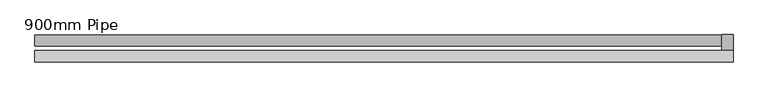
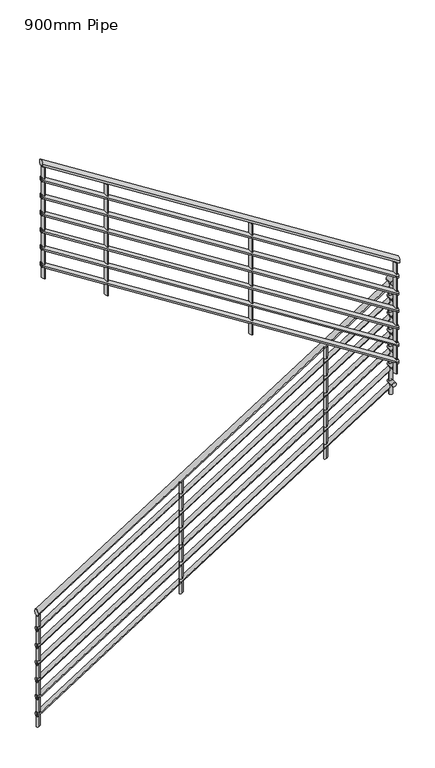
"""IFC4 building model written with IfcOpenShell, lengths in millimetres: railing geometry, 900mm Pipe."""

from ifc_helpers import new_model, si_unit, point, frame, frame_2d, origin, place, context, project, spatial, circle_curve, ellipse_curve, trimmed, segment, composite_curve, outline, extrude, source, transform, mapped, element, save
from ifc_brep_helpers import plane_surface, cylinder_surface, advanced_brep


def railing_900mm_pipe_01e83790(model_context):
    return source(origin(), model_context, "Body", "SolidModel", [
        advanced_brep(
        [(9044.2181942, -645.4667097, 1051.2938094), (9044.2181942, -685.4667097, 1051.2938094), (11474.2181942, -645.4667097, 2597.6574458), (11474.2181942, -685.4667097, 2597.6574458)],
        [
            (0, 1, ellipse_curve(frame((9044.2181942, -665.4667097, 1051.2938094), z_axis=(-1.0, 0.0, 0.0), x_axis=(0.0, 0.0, -1.0)), 23.7061906, 20.0)),
            (1, 0, ellipse_curve(frame((9044.2181942, -665.4667097, 1051.2938094), z_axis=(-1.0, 0.0, 0.0), x_axis=(0.0, 0.0, -1.0)), 23.7061906, 20.0)),
            (2, 3, ellipse_curve(frame((11474.2181942, -665.4667097, 2597.6574458), z_axis=(1.0, 0.0, 0.0), x_axis=(0.0, 0.0, -1.0)), 23.7061906, 20.0)),
            (3, 2, ellipse_curve(frame((11474.2181942, -665.4667097, 2597.6574458), z_axis=(1.0, 0.0, 0.0), x_axis=(0.0, 0.0, -1.0)), 23.7061906, 20.0)),
            (1, 3),
            (2, 0),
        ],
        [
            plane_surface(frame((9044.2181942, -665.4667097, 1075.0), z_axis=(-1.0, 0.0, 0.0), x_axis=(0.0, 1.0, 0.0))),
            plane_surface(frame((11474.2181942, -665.4667097, 2621.3636364), z_axis=(1.0, 0.0, 0.0), x_axis=(0.0, 1.0, 0.0))),
            cylinder_surface(frame((9054.955704, -665.4667097, 1058.1267702), z_axis=(-0.8436614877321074, 0.0, -0.5368754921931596), x_axis=(0.0, -1.0, 0.0)), 20.0),
        ],
        [
            (0, [[1, 2]]),
            (1, [[3, 4]]),
            (2, [[-2, 5, -3, 6]]),
            (2, [[-1, -6, -4, -5]]),
        ],
    ),
        advanced_brep(
        [(11514.2181942, -645.4667097, 2630.0), (11474.2181942, -645.4667097, 2630.0), (11514.2181942, -702.0090589, 2630.0), (11474.2181942, -702.0090589, 2630.0)],
        [
            (0, 1, circle_curve(frame((11494.2181942, -645.4667097, 2630.0), z_axis=(0.0, 1.0, 0.0), x_axis=(-1.0, 0.0, 0.0)), 20.0)),
            (1, 0, circle_curve(frame((11494.2181942, -645.4667097, 2630.0), z_axis=(0.0, 1.0, 0.0), x_axis=(-1.0, 0.0, 0.0)), 20.0)),
            (2, 3, circle_curve(frame((11494.2181942, -702.0090589, 2630.0), z_axis=(0.0, -1.0, 0.0), x_axis=(-1.0, 0.0, 0.0)), 20.0)),
            (3, 2, circle_curve(frame((11494.2181942, -702.0090589, 2630.0), z_axis=(0.0, -1.0, 0.0), x_axis=(-1.0, 0.0, 0.0)), 20.0)),
            (1, 3),
            (2, 0),
        ],
        [
            plane_surface(frame((11494.2181942, -645.4667097, 2650.0), z_axis=(0.0, 1.0, 0.0), x_axis=(0.0, 0.0, -1.0))),
            plane_surface(frame((11494.2181942, -702.0090589, 2650.0), z_axis=(0.0, -1.0, 0.0), x_axis=(0.0, 0.0, -1.0))),
            cylinder_surface(frame((11494.2181942, -645.4667097, 2630.0), z_axis=(0.0, 1.0, 0.0), x_axis=(-1.0, 0.0, 0.0)), 20.0),
        ],
        [
            (0, [[1, 2]]),
            (1, [[3, 4]]),
            (2, [[-2, 5, -3, 6]]),
            (2, [[-1, -6, -4, -5]]),
        ],
    ),
        advanced_brep(
        [(11514.2181942, -742.0090589, 2804.4756276), (11514.2181942, -702.0090589, 2804.4756276), (9044.2181942, -742.0090589, 4376.2938094), (9044.2181942, -702.0090589, 4376.2938094)],
        [
            (0, 1, ellipse_curve(frame((11514.2181942, -722.0090589, 2804.4756276), z_axis=(1.0, 0.0, 0.0), x_axis=(0.0, 0.0, -1.0)), 23.7061906, 20.0)),
            (1, 0, ellipse_curve(frame((11514.2181942, -722.0090589, 2804.4756276), z_axis=(1.0, 0.0, 0.0), x_axis=(0.0, 0.0, -1.0)), 23.7061906, 20.0)),
            (2, 3, ellipse_curve(frame((9044.2181942, -722.0090589, 4376.2938094), z_axis=(-1.0, 0.0, 0.0), x_axis=(0.0, 0.0, -1.0)), 23.7061906, 20.0)),
            (3, 2, ellipse_curve(frame((9044.2181942, -722.0090589, 4376.2938094), z_axis=(-1.0, 0.0, 0.0), x_axis=(0.0, 0.0, -1.0)), 23.7061906, 20.0)),
            (1, 3),
            (2, 0),
        ],
        [
            plane_surface(frame((11514.2181942, -722.0090589, 2828.1818182), z_axis=(1.0, 0.0, 0.0), x_axis=(0.0, -1.0, 0.0))),
            plane_surface(frame((9044.2181942, -722.0090589, 4400.0), z_axis=(-1.0, 0.0, 0.0), x_axis=(0.0, -1.0, 0.0))),
            cylinder_surface(frame((11503.4806843, -722.0090589, 2811.3085884), z_axis=(0.8436614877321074, 0.0, -0.5368754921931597), x_axis=(0.0, 1.0, 0.0)), 20.0),
        ],
        [
            (0, [[1, 2]]),
            (1, [[3, 4]]),
            (2, [[-2, 5, -3, 6]]),
            (2, [[-1, -6, -4, -5]]),
        ],
    ),
        advanced_brep(
        [(9044.2181942, -650.4667097, 932.2203571), (9044.2181942, -680.4667097, 932.2203571), (11479.2181942, -650.4667097, 2481.7658116), (11479.2181942, -680.4667097, 2481.7658116)],
        [
            (0, 1, ellipse_curve(frame((9044.2181942, -665.4667097, 932.2203571), z_axis=(-1.0, 0.0, 0.0), x_axis=(0.0, 0.0, -1.0)), 17.7796429, 15.0)),
            (1, 0, ellipse_curve(frame((9044.2181942, -665.4667097, 932.2203571), z_axis=(-1.0, 0.0, 0.0), x_axis=(0.0, 0.0, -1.0)), 17.7796429, 15.0)),
            (2, 3, ellipse_curve(frame((11479.2181942, -665.4667097, 2481.7658116), z_axis=(1.0, 0.0, 0.0), x_axis=(0.0, 0.0, -1.0)), 17.7796429, 15.0)),
            (3, 2, ellipse_curve(frame((11479.2181942, -665.4667097, 2481.7658116), z_axis=(1.0, 0.0, 0.0), x_axis=(0.0, 0.0, -1.0)), 17.7796429, 15.0)),
            (1, 3),
            (2, 0),
        ],
        [
            plane_surface(frame((9044.2181942, -665.4667097, 950.0), z_axis=(-1.0, 0.0, 0.0), x_axis=(0.0, 1.0, 0.0))),
            plane_surface(frame((11479.2181942, -665.4667097, 2499.5454545), z_axis=(1.0, 0.0, 0.0), x_axis=(0.0, 1.0, 0.0))),
            cylinder_surface(frame((9052.2713265, -665.4667097, 937.3450777), z_axis=(-0.8436614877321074, 0.0, -0.5368754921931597), x_axis=(0.0, -1.0, 0.0)), 15.0),
        ],
        [
            (0, [[1, 2]]),
            (1, [[3, 4]]),
            (2, [[-2, 5, -3, 6]]),
            (2, [[-1, -6, -4, -5]]),
        ],
    ),
        advanced_brep(
        [(11509.2181942, -650.4667097, 2510.0), (11479.2181942, -650.4667097, 2510.0), (11509.2181942, -707.0090589, 2510.0), (11479.2181942, -707.0090589, 2510.0)],
        [
            (0, 1, circle_curve(frame((11494.2181942, -650.4667097, 2510.0), z_axis=(0.0, 1.0, 0.0), x_axis=(-1.0, 0.0, 0.0)), 15.0)),
            (1, 0, circle_curve(frame((11494.2181942, -650.4667097, 2510.0), z_axis=(0.0, 1.0, 0.0), x_axis=(-1.0, 0.0, 0.0)), 15.0)),
            (2, 3, circle_curve(frame((11494.2181942, -707.0090589, 2510.0), z_axis=(0.0, -1.0, 0.0), x_axis=(-1.0, 0.0, 0.0)), 15.0)),
            (3, 2, circle_curve(frame((11494.2181942, -707.0090589, 2510.0), z_axis=(0.0, -1.0, 0.0), x_axis=(-1.0, 0.0, 0.0)), 15.0)),
            (1, 3),
            (2, 0),
        ],
        [
            plane_surface(frame((11494.2181942, -650.4667097, 2525.0), z_axis=(0.0, 1.0, 0.0), x_axis=(0.0, 0.0, -1.0))),
            plane_surface(frame((11494.2181942, -707.0090589, 2525.0), z_axis=(0.0, -1.0, 0.0), x_axis=(0.0, 0.0, -1.0))),
            cylinder_surface(frame((11494.2181942, -650.4667097, 2510.0), z_axis=(0.0, 1.0, 0.0), x_axis=(-1.0, 0.0, 0.0)), 15.0),
        ],
        [
            (0, [[1, 2]]),
            (1, [[3, 4]]),
            (2, [[-2, 5, -3, 6]]),
            (2, [[-1, -6, -4, -5]]),
        ],
    ),
        advanced_brep(
        [(11509.2181942, -737.0090589, 2688.5839934), (11509.2181942, -707.0090589, 2688.5839934), (9044.2181942, -737.0090589, 4257.2203571), (9044.2181942, -707.0090589, 4257.2203571)],
        [
            (0, 1, ellipse_curve(frame((11509.2181942, -722.0090589, 2688.5839934), z_axis=(1.0, 0.0, 0.0), x_axis=(0.0, 0.0, -1.0)), 17.7796429, 15.0)),
            (1, 0, ellipse_curve(frame((11509.2181942, -722.0090589, 2688.5839934), z_axis=(1.0, 0.0, 0.0), x_axis=(0.0, 0.0, -1.0)), 17.7796429, 15.0)),
            (2, 3, ellipse_curve(frame((9044.2181942, -722.0090589, 4257.2203571), z_axis=(-1.0, 0.0, 0.0), x_axis=(0.0, 0.0, -1.0)), 17.7796429, 15.0)),
            (3, 2, ellipse_curve(frame((9044.2181942, -722.0090589, 4257.2203571), z_axis=(-1.0, 0.0, 0.0), x_axis=(0.0, 0.0, -1.0)), 17.7796429, 15.0)),
            (1, 3),
            (2, 0),
        ],
        [
            plane_surface(frame((11509.2181942, -722.0090589, 2706.3636364), z_axis=(1.0, 0.0, 0.0), x_axis=(0.0, -1.0, 0.0))),
            plane_surface(frame((9044.2181942, -722.0090589, 4275.0), z_axis=(-1.0, 0.0, 0.0), x_axis=(0.0, -1.0, 0.0))),
            cylinder_surface(frame((11501.1650618, -722.0090589, 2693.708714), z_axis=(0.8436614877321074, 0.0, -0.5368754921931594), x_axis=(0.0, 1.0, 0.0)), 15.0),
        ],
        [
            (0, [[1, 2]]),
            (1, [[3, 4]]),
            (2, [[-2, 5, -3, 6]]),
            (2, [[-1, -6, -4, -5]]),
        ],
    ),
        advanced_brep(
        [(9044.2181942, -650.4667097, 807.2203571), (9044.2181942, -680.4667097, 807.2203571), (11479.2181942, -650.4667097, 2356.7658116), (11479.2181942, -680.4667097, 2356.7658116)],
        [
            (0, 1, ellipse_curve(frame((9044.2181942, -665.4667097, 807.2203571), z_axis=(-1.0, 0.0, 0.0), x_axis=(0.0, 0.0, -1.0)), 17.7796429, 15.0)),
            (1, 0, ellipse_curve(frame((9044.2181942, -665.4667097, 807.2203571), z_axis=(-1.0, 0.0, 0.0), x_axis=(0.0, 0.0, -1.0)), 17.7796429, 15.0)),
            (2, 3, ellipse_curve(frame((11479.2181942, -665.4667097, 2356.7658116), z_axis=(1.0, 0.0, 0.0), x_axis=(0.0, 0.0, -1.0)), 17.7796429, 15.0)),
            (3, 2, ellipse_curve(frame((11479.2181942, -665.4667097, 2356.7658116), z_axis=(1.0, 0.0, 0.0), x_axis=(0.0, 0.0, -1.0)), 17.7796429, 15.0)),
            (1, 3),
            (2, 0),
        ],
        [
            plane_surface(frame((9044.2181942, -665.4667097, 825.0), z_axis=(-1.0, 0.0, 0.0), x_axis=(0.0, 1.0, 0.0))),
            plane_surface(frame((11479.2181942, -665.4667097, 2374.5454545), z_axis=(1.0, 0.0, 0.0), x_axis=(0.0, 1.0, 0.0))),
            cylinder_surface(frame((9052.2713265, -665.4667097, 812.3450777), z_axis=(-0.8436614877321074, 0.0, -0.5368754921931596), x_axis=(0.0, -1.0, 0.0)), 15.0),
        ],
        [
            (0, [[1, 2]]),
            (1, [[3, 4]]),
            (2, [[-2, 5, -3, 6]]),
            (2, [[-1, -6, -4, -5]]),
        ],
    ),
        advanced_brep(
        [(11509.2181942, -650.4667097, 2385.0), (11479.2181942, -650.4667097, 2385.0), (11509.2181942, -707.0090589, 2385.0), (11479.2181942, -707.0090589, 2385.0)],
        [
            (0, 1, circle_curve(frame((11494.2181942, -650.4667097, 2385.0), z_axis=(0.0, 1.0, 0.0), x_axis=(-1.0, 0.0, 0.0)), 15.0)),
            (1, 0, circle_curve(frame((11494.2181942, -650.4667097, 2385.0), z_axis=(0.0, 1.0, 0.0), x_axis=(-1.0, 0.0, 0.0)), 15.0)),
            (2, 3, circle_curve(frame((11494.2181942, -707.0090589, 2385.0), z_axis=(0.0, -1.0, 0.0), x_axis=(-1.0, 0.0, 0.0)), 15.0)),
            (3, 2, circle_curve(frame((11494.2181942, -707.0090589, 2385.0), z_axis=(0.0, -1.0, 0.0), x_axis=(-1.0, 0.0, 0.0)), 15.0)),
            (1, 3),
            (2, 0),
        ],
        [
            plane_surface(frame((11494.2181942, -650.4667097, 2400.0), z_axis=(0.0, 1.0, 0.0), x_axis=(0.0, 0.0, -1.0))),
            plane_surface(frame((11494.2181942, -707.0090589, 2400.0), z_axis=(0.0, -1.0, 0.0), x_axis=(0.0, 0.0, -1.0))),
            cylinder_surface(frame((11494.2181942, -650.4667097, 2385.0), z_axis=(0.0, 1.0, 0.0), x_axis=(-1.0, 0.0, 0.0)), 15.0),
        ],
        [
            (0, [[1, 2]]),
            (1, [[3, 4]]),
            (2, [[-2, 5, -3, 6]]),
            (2, [[-1, -6, -4, -5]]),
        ],
    ),
        advanced_brep(
        [(11509.2181942, -737.0090589, 2563.5839934), (11509.2181942, -707.0090589, 2563.5839934), (9044.2181942, -737.0090589, 4132.2203571), (9044.2181942, -707.0090589, 4132.2203571)],
        [
            (0, 1, ellipse_curve(frame((11509.2181942, -722.0090589, 2563.5839934), z_axis=(1.0, 0.0, 0.0), x_axis=(0.0, 0.0, -1.0)), 17.7796429, 15.0)),
            (1, 0, ellipse_curve(frame((11509.2181942, -722.0090589, 2563.5839934), z_axis=(1.0, 0.0, 0.0), x_axis=(0.0, 0.0, -1.0)), 17.7796429, 15.0)),
            (2, 3, ellipse_curve(frame((9044.2181942, -722.0090589, 4132.2203571), z_axis=(-1.0, 0.0, 0.0), x_axis=(0.0, 0.0, -1.0)), 17.7796429, 15.0)),
            (3, 2, ellipse_curve(frame((9044.2181942, -722.0090589, 4132.2203571), z_axis=(-1.0, 0.0, 0.0), x_axis=(0.0, 0.0, -1.0)), 17.7796429, 15.0)),
            (1, 3),
            (2, 0),
        ],
        [
            plane_surface(frame((11509.2181942, -722.0090589, 2581.3636364), z_axis=(1.0, 0.0, 0.0), x_axis=(0.0, -1.0, 0.0))),
            plane_surface(frame((9044.2181942, -722.0090589, 4150.0), z_axis=(-1.0, 0.0, 0.0), x_axis=(0.0, -1.0, 0.0))),
            cylinder_surface(frame((11501.1650618, -722.0090589, 2568.708714), z_axis=(0.8436614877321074, 0.0, -0.5368754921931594), x_axis=(0.0, 1.0, 0.0)), 15.0),
        ],
        [
            (0, [[1, 2]]),
            (1, [[3, 4]]),
            (2, [[-2, 5, -3, 6]]),
            (2, [[-1, -6, -4, -5]]),
        ],
    ),
        advanced_brep(
        [(9044.2181942, -650.4667097, 682.2203571), (9044.2181942, -680.4667097, 682.2203571), (11479.2181942, -650.4667097, 2231.7658116), (11479.2181942, -680.4667097, 2231.7658116)],
        [
            (0, 1, ellipse_curve(frame((9044.2181942, -665.4667097, 682.2203571), z_axis=(-1.0, 0.0, 0.0), x_axis=(0.0, 0.0, -1.0)), 17.7796429, 15.0)),
            (1, 0, ellipse_curve(frame((9044.2181942, -665.4667097, 682.2203571), z_axis=(-1.0, 0.0, 0.0), x_axis=(0.0, 0.0, -1.0)), 17.7796429, 15.0)),
            (2, 3, ellipse_curve(frame((11479.2181942, -665.4667097, 2231.7658116), z_axis=(1.0, 0.0, 0.0), x_axis=(0.0, 0.0, -1.0)), 17.7796429, 15.0)),
            (3, 2, ellipse_curve(frame((11479.2181942, -665.4667097, 2231.7658116), z_axis=(1.0, 0.0, 0.0), x_axis=(0.0, 0.0, -1.0)), 17.7796429, 15.0)),
            (1, 3),
            (2, 0),
        ],
        [
            plane_surface(frame((9044.2181942, -665.4667097, 700.0), z_axis=(-1.0, 0.0, 0.0), x_axis=(0.0, 1.0, 0.0))),
            plane_surface(frame((11479.2181942, -665.4667097, 2249.5454545), z_axis=(1.0, 0.0, 0.0), x_axis=(0.0, 1.0, 0.0))),
            cylinder_surface(frame((9052.2713265, -665.4667097, 687.3450777), z_axis=(-0.8436614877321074, 0.0, -0.5368754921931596), x_axis=(0.0, -1.0, 0.0)), 15.0),
        ],
        [
            (0, [[1, 2]]),
            (1, [[3, 4]]),
            (2, [[-2, 5, -3, 6]]),
            (2, [[-1, -6, -4, -5]]),
        ],
    ),
        advanced_brep(
        [(11509.2181942, -650.4667097, 2260.0), (11479.2181942, -650.4667097, 2260.0), (11509.2181942, -707.0090589, 2260.0), (11479.2181942, -707.0090589, 2260.0)],
        [
            (0, 1, circle_curve(frame((11494.2181942, -650.4667097, 2260.0), z_axis=(0.0, 1.0, 0.0), x_axis=(-1.0, 0.0, 0.0)), 15.0)),
            (1, 0, circle_curve(frame((11494.2181942, -650.4667097, 2260.0), z_axis=(0.0, 1.0, 0.0), x_axis=(-1.0, 0.0, 0.0)), 15.0)),
            (2, 3, circle_curve(frame((11494.2181942, -707.0090589, 2260.0), z_axis=(0.0, -1.0, 0.0), x_axis=(-1.0, 0.0, 0.0)), 15.0)),
            (3, 2, circle_curve(frame((11494.2181942, -707.0090589, 2260.0), z_axis=(0.0, -1.0, 0.0), x_axis=(-1.0, 0.0, 0.0)), 15.0)),
            (1, 3),
            (2, 0),
        ],
        [
            plane_surface(frame((11494.2181942, -650.4667097, 2275.0), z_axis=(0.0, 1.0, 0.0), x_axis=(0.0, 0.0, -1.0))),
            plane_surface(frame((11494.2181942, -707.0090589, 2275.0), z_axis=(0.0, -1.0, 0.0), x_axis=(0.0, 0.0, -1.0))),
            cylinder_surface(frame((11494.2181942, -650.4667097, 2260.0), z_axis=(0.0, 1.0, 0.0), x_axis=(-1.0, 0.0, 0.0)), 15.0),
        ],
        [
            (0, [[1, 2]]),
            (1, [[3, 4]]),
            (2, [[-2, 5, -3, 6]]),
            (2, [[-1, -6, -4, -5]]),
        ],
    ),
        advanced_brep(
        [(11509.2181942, -737.0090589, 2438.5839934), (11509.2181942, -707.0090589, 2438.5839934), (9044.2181942, -737.0090589, 4007.2203571), (9044.2181942, -707.0090589, 4007.2203571)],
        [
            (0, 1, ellipse_curve(frame((11509.2181942, -722.0090589, 2438.5839934), z_axis=(1.0, 0.0, 0.0), x_axis=(0.0, 0.0, -1.0)), 17.7796429, 15.0)),
            (1, 0, ellipse_curve(frame((11509.2181942, -722.0090589, 2438.5839934), z_axis=(1.0, 0.0, 0.0), x_axis=(0.0, 0.0, -1.0)), 17.7796429, 15.0)),
            (2, 3, ellipse_curve(frame((9044.2181942, -722.0090589, 4007.2203571), z_axis=(-1.0, 0.0, 0.0), x_axis=(0.0, 0.0, -1.0)), 17.7796429, 15.0)),
            (3, 2, ellipse_curve(frame((9044.2181942, -722.0090589, 4007.2203571), z_axis=(-1.0, 0.0, 0.0), x_axis=(0.0, 0.0, -1.0)), 17.7796429, 15.0)),
            (1, 3),
            (2, 0),
        ],
        [
            plane_surface(frame((11509.2181942, -722.0090589, 2456.3636364), z_axis=(1.0, 0.0, 0.0), x_axis=(0.0, -1.0, 0.0))),
            plane_surface(frame((9044.2181942, -722.0090589, 4025.0), z_axis=(-1.0, 0.0, 0.0), x_axis=(0.0, -1.0, 0.0))),
            cylinder_surface(frame((11501.1650618, -722.0090589, 2443.708714), z_axis=(0.8436614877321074, 0.0, -0.5368754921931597), x_axis=(0.0, 1.0, 0.0)), 15.0),
        ],
        [
            (0, [[1, 2]]),
            (1, [[3, 4]]),
            (2, [[-2, 5, -3, 6]]),
            (2, [[-1, -6, -4, -5]]),
        ],
    ),
        advanced_brep(
        [(9044.2181942, -650.4667097, 557.2203571), (9044.2181942, -680.4667097, 557.2203571), (11479.2181942, -650.4667097, 2106.7658116), (11479.2181942, -680.4667097, 2106.7658116)],
        [
            (0, 1, ellipse_curve(frame((9044.2181942, -665.4667097, 557.2203571), z_axis=(-1.0, 0.0, 0.0), x_axis=(0.0, 0.0, -1.0)), 17.7796429, 15.0)),
            (1, 0, ellipse_curve(frame((9044.2181942, -665.4667097, 557.2203571), z_axis=(-1.0, 0.0, 0.0), x_axis=(0.0, 0.0, -1.0)), 17.7796429, 15.0)),
            (2, 3, ellipse_curve(frame((11479.2181942, -665.4667097, 2106.7658116), z_axis=(1.0, 0.0, 0.0), x_axis=(0.0, 0.0, -1.0)), 17.7796429, 15.0)),
            (3, 2, ellipse_curve(frame((11479.2181942, -665.4667097, 2106.7658116), z_axis=(1.0, 0.0, 0.0), x_axis=(0.0, 0.0, -1.0)), 17.7796429, 15.0)),
            (1, 3),
            (2, 0),
        ],
        [
            plane_surface(frame((9044.2181942, -665.4667097, 575.0), z_axis=(-1.0, 0.0, 0.0), x_axis=(0.0, 1.0, 0.0))),
            plane_surface(frame((11479.2181942, -665.4667097, 2124.5454545), z_axis=(1.0, 0.0, 0.0), x_axis=(0.0, 1.0, 0.0))),
            cylinder_surface(frame((9052.2713265, -665.4667097, 562.3450777), z_axis=(-0.8436614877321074, 0.0, -0.5368754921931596), x_axis=(0.0, -1.0, 0.0)), 15.0),
        ],
        [
            (0, [[1, 2]]),
            (1, [[3, 4]]),
            (2, [[-2, 5, -3, 6]]),
            (2, [[-1, -6, -4, -5]]),
        ],
    ),
        advanced_brep(
        [(11509.2181942, -650.4667097, 2135.0), (11479.2181942, -650.4667097, 2135.0), (11509.2181942, -707.0090589, 2135.0), (11479.2181942, -707.0090589, 2135.0)],
        [
            (0, 1, circle_curve(frame((11494.2181942, -650.4667097, 2135.0), z_axis=(0.0, 1.0, 0.0), x_axis=(-1.0, 0.0, 0.0)), 15.0)),
            (1, 0, circle_curve(frame((11494.2181942, -650.4667097, 2135.0), z_axis=(0.0, 1.0, 0.0), x_axis=(-1.0, 0.0, 0.0)), 15.0)),
            (2, 3, circle_curve(frame((11494.2181942, -707.0090589, 2135.0), z_axis=(0.0, -1.0, 0.0), x_axis=(-1.0, 0.0, 0.0)), 15.0)),
            (3, 2, circle_curve(frame((11494.2181942, -707.0090589, 2135.0), z_axis=(0.0, -1.0, 0.0), x_axis=(-1.0, 0.0, 0.0)), 15.0)),
            (1, 3),
            (2, 0),
        ],
        [
            plane_surface(frame((11494.2181942, -650.4667097, 2150.0), z_axis=(0.0, 1.0, 0.0), x_axis=(0.0, 0.0, -1.0))),
            plane_surface(frame((11494.2181942, -707.0090589, 2150.0), z_axis=(0.0, -1.0, 0.0), x_axis=(0.0, 0.0, -1.0))),
            cylinder_surface(frame((11494.2181942, -650.4667097, 2135.0), z_axis=(0.0, 1.0, 0.0), x_axis=(-1.0, 0.0, 0.0)), 15.0),
        ],
        [
            (0, [[1, 2]]),
            (1, [[3, 4]]),
            (2, [[-2, 5, -3, 6]]),
            (2, [[-1, -6, -4, -5]]),
        ],
    ),
        advanced_brep(
        [(11509.2181942, -737.0090589, 2313.5839934), (11509.2181942, -707.0090589, 2313.5839934), (9044.2181942, -737.0090589, 3882.2203571), (9044.2181942, -707.0090589, 3882.2203571)],
        [
            (0, 1, ellipse_curve(frame((11509.2181942, -722.0090589, 2313.5839934), z_axis=(1.0, 0.0, 0.0), x_axis=(0.0, 0.0, -1.0)), 17.7796429, 15.0)),
            (1, 0, ellipse_curve(frame((11509.2181942, -722.0090589, 2313.5839934), z_axis=(1.0, 0.0, 0.0), x_axis=(0.0, 0.0, -1.0)), 17.7796429, 15.0)),
            (2, 3, ellipse_curve(frame((9044.2181942, -722.0090589, 3882.2203571), z_axis=(-1.0, 0.0, 0.0), x_axis=(0.0, 0.0, -1.0)), 17.7796429, 15.0)),
            (3, 2, ellipse_curve(frame((9044.2181942, -722.0090589, 3882.2203571), z_axis=(-1.0, 0.0, 0.0), x_axis=(0.0, 0.0, -1.0)), 17.7796429, 15.0)),
            (1, 3),
            (2, 0),
        ],
        [
            plane_surface(frame((11509.2181942, -722.0090589, 2331.3636364), z_axis=(1.0, 0.0, 0.0), x_axis=(0.0, -1.0, 0.0))),
            plane_surface(frame((9044.2181942, -722.0090589, 3900.0), z_axis=(-1.0, 0.0, 0.0), x_axis=(0.0, -1.0, 0.0))),
            cylinder_surface(frame((11501.1650618, -722.0090589, 2318.708714), z_axis=(0.8436614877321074, 0.0, -0.5368754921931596), x_axis=(0.0, 1.0, 0.0)), 15.0),
        ],
        [
            (0, [[1, 2]]),
            (1, [[3, 4]]),
            (2, [[-2, 5, -3, 6]]),
            (2, [[-1, -6, -4, -5]]),
        ],
    ),
        advanced_brep(
        [(9044.2181942, -650.4667097, 432.2203571), (9044.2181942, -680.4667097, 432.2203571), (11479.2181942, -650.4667097, 1981.7658116), (11479.2181942, -680.4667097, 1981.7658116)],
        [
            (0, 1, ellipse_curve(frame((9044.2181942, -665.4667097, 432.2203571), z_axis=(-1.0, 0.0, 0.0), x_axis=(0.0, 0.0, -1.0)), 17.7796429, 15.0)),
            (1, 0, ellipse_curve(frame((9044.2181942, -665.4667097, 432.2203571), z_axis=(-1.0, 0.0, 0.0), x_axis=(0.0, 0.0, -1.0)), 17.7796429, 15.0)),
            (2, 3, ellipse_curve(frame((11479.2181942, -665.4667097, 1981.7658116), z_axis=(1.0, 0.0, 0.0), x_axis=(0.0, 0.0, -1.0)), 17.7796429, 15.0)),
            (3, 2, ellipse_curve(frame((11479.2181942, -665.4667097, 1981.7658116), z_axis=(1.0, 0.0, 0.0), x_axis=(0.0, 0.0, -1.0)), 17.7796429, 15.0)),
            (1, 3),
            (2, 0),
        ],
        [
            plane_surface(frame((9044.2181942, -665.4667097, 450.0), z_axis=(-1.0, 0.0, 0.0), x_axis=(0.0, 1.0, 0.0))),
            plane_surface(frame((11479.2181942, -665.4667097, 1999.5454545), z_axis=(1.0, 0.0, 0.0), x_axis=(0.0, 1.0, 0.0))),
            cylinder_surface(frame((9052.2713265, -665.4667097, 437.3450777), z_axis=(-0.8436614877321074, 0.0, -0.5368754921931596), x_axis=(0.0, -1.0, 0.0)), 15.0),
        ],
        [
            (0, [[1, 2]]),
            (1, [[3, 4]]),
            (2, [[-2, 5, -3, 6]]),
            (2, [[-1, -6, -4, -5]]),
        ],
    ),
        advanced_brep(
        [(11509.2181942, -650.4667097, 2010.0), (11479.2181942, -650.4667097, 2010.0), (11509.2181942, -707.0090589, 2010.0), (11479.2181942, -707.0090589, 2010.0)],
        [
            (0, 1, circle_curve(frame((11494.2181942, -650.4667097, 2010.0), z_axis=(0.0, 1.0, 0.0), x_axis=(-1.0, 0.0, 0.0)), 15.0)),
            (1, 0, circle_curve(frame((11494.2181942, -650.4667097, 2010.0), z_axis=(0.0, 1.0, 0.0), x_axis=(-1.0, 0.0, 0.0)), 15.0)),
            (2, 3, circle_curve(frame((11494.2181942, -707.0090589, 2010.0), z_axis=(0.0, -1.0, 0.0), x_axis=(-1.0, 0.0, 0.0)), 15.0)),
            (3, 2, circle_curve(frame((11494.2181942, -707.0090589, 2010.0), z_axis=(0.0, -1.0, 0.0), x_axis=(-1.0, 0.0, 0.0)), 15.0)),
            (1, 3),
            (2, 0),
        ],
        [
            plane_surface(frame((11494.2181942, -650.4667097, 2025.0), z_axis=(0.0, 1.0, 0.0), x_axis=(0.0, 0.0, -1.0))),
            plane_surface(frame((11494.2181942, -707.0090589, 2025.0), z_axis=(0.0, -1.0, 0.0), x_axis=(0.0, 0.0, -1.0))),
            cylinder_surface(frame((11494.2181942, -650.4667097, 2010.0), z_axis=(0.0, 1.0, 0.0), x_axis=(-1.0, 0.0, 0.0)), 15.0),
        ],
        [
            (0, [[1, 2]]),
            (1, [[3, 4]]),
            (2, [[-2, 5, -3, 6]]),
            (2, [[-1, -6, -4, -5]]),
        ],
    ),
        advanced_brep(
        [(11509.2181942, -737.0090589, 2188.5839934), (11509.2181942, -707.0090589, 2188.5839934), (9044.2181942, -737.0090589, 3757.2203571), (9044.2181942, -707.0090589, 3757.2203571)],
        [
            (0, 1, ellipse_curve(frame((11509.2181942, -722.0090589, 2188.5839934), z_axis=(1.0, 0.0, 0.0), x_axis=(0.0, 0.0, -1.0)), 17.7796429, 15.0)),
            (1, 0, ellipse_curve(frame((11509.2181942, -722.0090589, 2188.5839934), z_axis=(1.0, 0.0, 0.0), x_axis=(0.0, 0.0, -1.0)), 17.7796429, 15.0)),
            (2, 3, ellipse_curve(frame((9044.2181942, -722.0090589, 3757.2203571), z_axis=(-1.0, 0.0, 0.0), x_axis=(0.0, 0.0, -1.0)), 17.7796429, 15.0)),
            (3, 2, ellipse_curve(frame((9044.2181942, -722.0090589, 3757.2203571), z_axis=(-1.0, 0.0, 0.0), x_axis=(0.0, 0.0, -1.0)), 17.7796429, 15.0)),
            (1, 3),
            (2, 0),
        ],
        [
            plane_surface(frame((11509.2181942, -722.0090589, 2206.3636364), z_axis=(1.0, 0.0, 0.0), x_axis=(0.0, -1.0, 0.0))),
            plane_surface(frame((9044.2181942, -722.0090589, 3775.0), z_axis=(-1.0, 0.0, 0.0), x_axis=(0.0, -1.0, 0.0))),
            cylinder_surface(frame((11501.1650618, -722.0090589, 2193.708714), z_axis=(0.8436614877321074, 0.0, -0.5368754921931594), x_axis=(0.0, 1.0, 0.0)), 15.0),
        ],
        [
            (0, [[1, 2]]),
            (1, [[3, 4]]),
            (2, [[-2, 5, -3, 6]]),
            (2, [[-1, -6, -4, -5]]),
        ],
    ),
        advanced_brep(
        [(9044.2181942, -650.4667097, 307.2203571), (9044.2181942, -680.4667097, 307.2203571), (11479.2181942, -650.4667097, 1856.7658116), (11479.2181942, -680.4667097, 1856.7658116)],
        [
            (0, 1, ellipse_curve(frame((9044.2181942, -665.4667097, 307.2203571), z_axis=(-1.0, 0.0, 0.0), x_axis=(0.0, 0.0, -1.0)), 17.7796429, 15.0)),
            (1, 0, ellipse_curve(frame((9044.2181942, -665.4667097, 307.2203571), z_axis=(-1.0, 0.0, 0.0), x_axis=(0.0, 0.0, -1.0)), 17.7796429, 15.0)),
            (2, 3, ellipse_curve(frame((11479.2181942, -665.4667097, 1856.7658116), z_axis=(1.0, 0.0, 0.0), x_axis=(0.0, 0.0, -1.0)), 17.7796429, 15.0)),
            (3, 2, ellipse_curve(frame((11479.2181942, -665.4667097, 1856.7658116), z_axis=(1.0, 0.0, 0.0), x_axis=(0.0, 0.0, -1.0)), 17.7796429, 15.0)),
            (1, 3),
            (2, 0),
        ],
        [
            plane_surface(frame((9044.2181942, -665.4667097, 325.0), z_axis=(-1.0, 0.0, 0.0), x_axis=(0.0, 1.0, 0.0))),
            plane_surface(frame((11479.2181942, -665.4667097, 1874.5454545), z_axis=(1.0, 0.0, 0.0), x_axis=(0.0, 1.0, 0.0))),
            cylinder_surface(frame((9052.2713265, -665.4667097, 312.3450777), z_axis=(-0.8436614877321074, 0.0, -0.5368754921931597), x_axis=(0.0, -1.0, 0.0)), 15.0),
        ],
        [
            (0, [[1, 2]]),
            (1, [[3, 4]]),
            (2, [[-2, 5, -3, 6]]),
            (2, [[-1, -6, -4, -5]]),
        ],
    ),
        advanced_brep(
        [(11509.2181942, -650.4667097, 1885.0), (11479.2181942, -650.4667097, 1885.0), (11509.2181942, -707.0090589, 1885.0), (11479.2181942, -707.0090589, 1885.0)],
        [
            (0, 1, circle_curve(frame((11494.2181942, -650.4667097, 1885.0), z_axis=(0.0, 1.0, 0.0), x_axis=(-1.0, 0.0, 0.0)), 15.0)),
            (1, 0, circle_curve(frame((11494.2181942, -650.4667097, 1885.0), z_axis=(0.0, 1.0, 0.0), x_axis=(-1.0, 0.0, 0.0)), 15.0)),
            (2, 3, circle_curve(frame((11494.2181942, -707.0090589, 1885.0), z_axis=(0.0, -1.0, 0.0), x_axis=(-1.0, 0.0, 0.0)), 15.0)),
            (3, 2, circle_curve(frame((11494.2181942, -707.0090589, 1885.0), z_axis=(0.0, -1.0, 0.0), x_axis=(-1.0, 0.0, 0.0)), 15.0)),
            (1, 3),
            (2, 0),
        ],
        [
            plane_surface(frame((11494.2181942, -650.4667097, 1900.0), z_axis=(0.0, 1.0, 0.0), x_axis=(0.0, 0.0, -1.0))),
            plane_surface(frame((11494.2181942, -707.0090589, 1900.0), z_axis=(0.0, -1.0, 0.0), x_axis=(0.0, 0.0, -1.0))),
            cylinder_surface(frame((11494.2181942, -650.4667097, 1885.0), z_axis=(0.0, 1.0, 0.0), x_axis=(-1.0, 0.0, 0.0)), 15.0),
        ],
        [
            (0, [[1, 2]]),
            (1, [[3, 4]]),
            (2, [[-2, 5, -3, 6]]),
            (2, [[-1, -6, -4, -5]]),
        ],
    ),
        advanced_brep(
        [(11509.2181942, -737.0090589, 2063.5839934), (11509.2181942, -707.0090589, 2063.5839934), (9044.2181942, -737.0090589, 3632.2203571), (9044.2181942, -707.0090589, 3632.2203571)],
        [
            (0, 1, ellipse_curve(frame((11509.2181942, -722.0090589, 2063.5839934), z_axis=(1.0, 0.0, 0.0), x_axis=(0.0, 0.0, -1.0)), 17.7796429, 15.0)),
            (1, 0, ellipse_curve(frame((11509.2181942, -722.0090589, 2063.5839934), z_axis=(1.0, 0.0, 0.0), x_axis=(0.0, 0.0, -1.0)), 17.7796429, 15.0)),
            (2, 3, ellipse_curve(frame((9044.2181942, -722.0090589, 3632.2203571), z_axis=(-1.0, 0.0, 0.0), x_axis=(0.0, 0.0, -1.0)), 17.7796429, 15.0)),
            (3, 2, ellipse_curve(frame((9044.2181942, -722.0090589, 3632.2203571), z_axis=(-1.0, 0.0, 0.0), x_axis=(0.0, 0.0, -1.0)), 17.7796429, 15.0)),
            (1, 3),
            (2, 0),
        ],
        [
            plane_surface(frame((11509.2181942, -722.0090589, 2081.3636364), z_axis=(1.0, 0.0, 0.0), x_axis=(0.0, -1.0, 0.0))),
            plane_surface(frame((9044.2181942, -722.0090589, 3650.0), z_axis=(-1.0, 0.0, 0.0), x_axis=(0.0, -1.0, 0.0))),
            cylinder_surface(frame((11501.1650618, -722.0090589, 2068.708714), z_axis=(0.8436614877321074, 0.0, -0.5368754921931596), x_axis=(0.0, 1.0, 0.0)), 15.0),
        ],
        [
            (0, [[1, 2]]),
            (1, [[3, 4]]),
            (2, [[-2, 5, -3, 6]]),
            (2, [[-1, -6, -4, -5]]),
        ],
    ),
        advanced_brep(
        [(9494.2181942, -709.5090589, 4066.2239825), (9494.2181942, -709.5090589, 3254.1032768), (9494.2181942, -734.5090589, 3254.1032768), (9494.2181942, -734.5090589, 4066.2239825)],
        [
            (0, 1),
            (1, 2, ellipse_curve(frame((9494.2181942, -722.0090589, 3254.1032768), z_axis=(0.5368754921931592, 0.0, 0.8436614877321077), x_axis=(-0.8436614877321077, 0.0, 0.5368754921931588)), 14.8163691, 12.5)),
            (2, 3),
            (3, 0, ellipse_curve(frame((9494.2181942, -722.0090589, 4066.2239825), z_axis=(-0.5368754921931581, 0.0, -0.8436614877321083), x_axis=(-0.8436614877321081, 0.0, 0.5368754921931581)), 14.8163691, 12.5)),
            (0, 3, ellipse_curve(frame((9494.2181942, -722.0090589, 4066.2239825), z_axis=(-0.5368754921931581, 0.0, -0.8436614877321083), x_axis=(-0.8436614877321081, 0.0, 0.5368754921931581)), 14.8163691, 12.5)),
            (2, 1, ellipse_curve(frame((9494.2181942, -722.0090589, 3254.1032768), z_axis=(0.5368754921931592, 0.0, 0.8436614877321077), x_axis=(-0.8436614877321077, 0.0, 0.5368754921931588)), 14.8163691, 12.5)),
        ],
        [
            cylinder_surface(frame((9494.2181942, -722.0090589, 3154.1032768), z_axis=(0.0, 0.0, 1.0), x_axis=(0.0, -1.0, 0.0)), 12.5),
            plane_surface(frame((9469.2181942, -747.0090589, 4082.1330734), z_axis=(0.5368754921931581, 0.0, 0.8436614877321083), x_axis=(0.0, 1.0, 0.0))),
            plane_surface(frame((9519.2181942, -747.0090589, 3238.1941859), z_axis=(-0.5368754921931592, 0.0, -0.8436614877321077), x_axis=(0.0, 1.0, 0.0))),
        ],
        [
            (0, [[1, 2, 3, 4]]),
            (0, [[-1, 5, -3, 6]]),
            (1, [[-4, -5]]),
            (2, [[-2, -6]]),
        ],
    ),
        advanced_brep(
        [(10494.2181942, -709.5090589, 3429.8603461), (10494.2181942, -709.5090589, 2617.7396405), (10494.2181942, -734.5090589, 2617.7396405), (10494.2181942, -734.5090589, 3429.8603461)],
        [
            (0, 1),
            (1, 2, ellipse_curve(frame((10494.2181942, -722.0090589, 2617.7396405), z_axis=(0.5368754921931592, 0.0, 0.8436614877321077), x_axis=(-0.8436614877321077, 0.0, 0.5368754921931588)), 14.8163691, 12.5)),
            (2, 3),
            (3, 0, ellipse_curve(frame((10494.2181942, -722.0090589, 3429.8603461), z_axis=(-0.5368754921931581, 0.0, -0.8436614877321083), x_axis=(-0.8436614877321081, 0.0, 0.5368754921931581)), 14.8163691, 12.5)),
            (0, 3, ellipse_curve(frame((10494.2181942, -722.0090589, 3429.8603461), z_axis=(-0.5368754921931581, 0.0, -0.8436614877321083), x_axis=(-0.8436614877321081, 0.0, 0.5368754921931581)), 14.8163691, 12.5)),
            (2, 1, ellipse_curve(frame((10494.2181942, -722.0090589, 2617.7396405), z_axis=(0.5368754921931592, 0.0, 0.8436614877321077), x_axis=(-0.8436614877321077, 0.0, 0.5368754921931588)), 14.8163691, 12.5)),
        ],
        [
            cylinder_surface(frame((10494.2181942, -722.0090589, 2517.7396405), z_axis=(0.0, 0.0, 1.0), x_axis=(0.0, -1.0, 0.0)), 12.5),
            plane_surface(frame((10469.2181942, -747.0090589, 3445.7694371), z_axis=(0.5368754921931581, 0.0, 0.8436614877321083), x_axis=(0.0, 1.0, 0.0))),
            plane_surface(frame((10519.2181942, -747.0090589, 2601.8305496), z_axis=(-0.5368754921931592, 0.0, -0.8436614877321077), x_axis=(0.0, 1.0, 0.0))),
        ],
        [
            (0, [[1, 2, 3, 4]]),
            (0, [[-1, 5, -3, 6]]),
            (1, [[-4, -5]]),
            (2, [[-2, -6]]),
        ],
    ),
        advanced_brep(
        [(11044.2181942, -677.9667097, 2300.3148916), (11044.2181942, -677.9667097, 1488.1941859), (11044.2181942, -652.9667097, 1488.1941859), (11044.2181942, -652.9667097, 2300.3148916)],
        [
            (0, 1),
            (1, 2, ellipse_curve(frame((11044.2181942, -665.4667097, 1488.1941859), z_axis=(-0.5368754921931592, 0.0, 0.8436614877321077), x_axis=(0.8436614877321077, 0.0, 0.5368754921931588)), 14.8163691, 12.5)),
            (2, 3),
            (3, 0, ellipse_curve(frame((11044.2181942, -665.4667097, 2300.3148916), z_axis=(0.5368754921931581, 0.0, -0.8436614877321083), x_axis=(0.8436614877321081, 0.0, 0.5368754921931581)), 14.8163691, 12.5)),
            (0, 3, ellipse_curve(frame((11044.2181942, -665.4667097, 2300.3148916), z_axis=(0.5368754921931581, 0.0, -0.8436614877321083), x_axis=(0.8436614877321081, 0.0, 0.5368754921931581)), 14.8163691, 12.5)),
            (2, 1, ellipse_curve(frame((11044.2181942, -665.4667097, 1488.1941859), z_axis=(-0.5368754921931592, 0.0, 0.8436614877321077), x_axis=(0.8436614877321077, 0.0, 0.5368754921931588)), 14.8163691, 12.5)),
        ],
        [
            cylinder_surface(frame((11044.2181942, -665.4667097, 1388.1941859), z_axis=(0.0, 0.0, 1.0), x_axis=(0.0, 1.0, 0.0)), 12.5),
            plane_surface(frame((11069.2181942, -640.4667097, 2316.2239825), z_axis=(-0.5368754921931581, 0.0, 0.8436614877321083), x_axis=(0.0, -1.0, 0.0))),
            plane_surface(frame((11019.2181942, -640.4667097, 1472.285095), z_axis=(0.5368754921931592, 0.0, -0.8436614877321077), x_axis=(0.0, -1.0, 0.0))),
        ],
        [
            (0, [[1, 2, 3, 4]]),
            (0, [[-1, 5, -3, 6]]),
            (1, [[-4, -5]]),
            (2, [[-2, -6]]),
        ],
    ),
        advanced_brep(
        [(10044.2181942, -677.9667097, 1663.9512552), (10044.2181942, -677.9667097, 851.8305496), (10044.2181942, -652.9667097, 851.8305496), (10044.2181942, -652.9667097, 1663.9512552)],
        [
            (0, 1),
            (1, 2, ellipse_curve(frame((10044.2181942, -665.4667097, 851.8305496), z_axis=(-0.5368754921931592, 0.0, 0.8436614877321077), x_axis=(0.8436614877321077, 0.0, 0.5368754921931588)), 14.8163691, 12.5)),
            (2, 3),
            (3, 0, ellipse_curve(frame((10044.2181942, -665.4667097, 1663.9512552), z_axis=(0.5368754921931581, 0.0, -0.8436614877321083), x_axis=(0.8436614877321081, 0.0, 0.5368754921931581)), 14.8163691, 12.5)),
            (0, 3, ellipse_curve(frame((10044.2181942, -665.4667097, 1663.9512552), z_axis=(0.5368754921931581, 0.0, -0.8436614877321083), x_axis=(0.8436614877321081, 0.0, 0.5368754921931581)), 14.8163691, 12.5)),
            (2, 1, ellipse_curve(frame((10044.2181942, -665.4667097, 851.8305496), z_axis=(-0.5368754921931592, 0.0, 0.8436614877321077), x_axis=(0.8436614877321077, 0.0, 0.5368754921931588)), 14.8163691, 12.5)),
        ],
        [
            cylinder_surface(frame((10044.2181942, -665.4667097, 751.8305496), z_axis=(0.0, 0.0, 1.0), x_axis=(0.0, 1.0, 0.0)), 12.5),
            plane_surface(frame((10069.2181942, -640.4667097, 1679.8603461), z_axis=(-0.5368754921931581, 0.0, 0.8436614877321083), x_axis=(0.0, -1.0, 0.0))),
            plane_surface(frame((10019.2181942, -640.4667097, 835.9214587), z_axis=(0.5368754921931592, 0.0, -0.8436614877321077), x_axis=(0.0, -1.0, 0.0))),
        ],
        [
            (0, [[1, 2, 3, 4]]),
            (0, [[-1, 5, -3, 6]]),
            (1, [[-4, -5]]),
            (2, [[-2, -6]]),
        ],
    ),
        advanced_brep(
        [(11494.2181942, -709.5090589, 2793.4967098), (11494.2181942, -709.5090589, 1981.3760041), (11494.2181942, -734.5090589, 1981.3760041), (11494.2181942, -734.5090589, 2793.4967098)],
        [
            (0, 1),
            (1, 2, ellipse_curve(frame((11494.2181942, -722.0090589, 1981.3760041), z_axis=(0.5368754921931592, 0.0, 0.8436614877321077), x_axis=(-0.8436614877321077, 0.0, 0.5368754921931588)), 14.8163691, 12.5)),
            (2, 3),
            (3, 0, ellipse_curve(frame((11494.2181942, -722.0090589, 2793.4967098), z_axis=(-0.5368754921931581, 0.0, -0.8436614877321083), x_axis=(-0.8436614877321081, 0.0, 0.5368754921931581)), 14.8163691, 12.5)),
            (0, 3, ellipse_curve(frame((11494.2181942, -722.0090589, 2793.4967098), z_axis=(-0.5368754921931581, 0.0, -0.8436614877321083), x_axis=(-0.8436614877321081, 0.0, 0.5368754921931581)), 14.8163691, 12.5)),
            (2, 1, ellipse_curve(frame((11494.2181942, -722.0090589, 1981.3760041), z_axis=(0.5368754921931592, 0.0, 0.8436614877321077), x_axis=(-0.8436614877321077, 0.0, 0.5368754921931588)), 14.8163691, 12.5)),
        ],
        [
            cylinder_surface(frame((11494.2181942, -722.0090589, 1881.3760041), z_axis=(0.0, 0.0, 1.0), x_axis=(0.0, -1.0, 0.0)), 12.5),
            plane_surface(frame((11469.2181942, -747.0090589, 2809.4058007), z_axis=(0.5368754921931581, 0.0, 0.8436614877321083), x_axis=(0.0, 1.0, 0.0))),
            plane_surface(frame((11519.2181942, -747.0090589, 1965.4669132), z_axis=(-0.5368754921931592, 0.0, -0.8436614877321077), x_axis=(0.0, 1.0, 0.0))),
        ],
        [
            (0, [[1, 2, 3, 4]]),
            (0, [[-1, 5, -3, 6]]),
            (1, [[-4, -5]]),
            (2, [[-2, -6]]),
        ],
    ),
        extrude(outline(composite_curve([segment(trimmed(circle_curve(frame_2d((11494.2181942, -665.4667097)), 12.5), [point((11506.7181942, -665.4667097))], [point((11481.7181942, -665.4667097))], False, "CARTESIAN"), True, "CONTINUOUS"), segment(trimmed(circle_curve(frame_2d((11494.2181942, -665.4667097)), 12.5), [point((11481.7181942, -665.4667097))], [point((11506.7181942, -665.4667097))], False, "CARTESIAN"), True, "CONTINUOUS")], self_intersect=False)), frame((0.0, 0.0, 1797.393727), z_axis=(0.0, 0.0, 1.0), x_axis=(1.0, 0.0, 0.0)), (0.0, 0.0, 1.0), 812.606273),
        advanced_brep(
        [(9056.7181942, -709.5090589, 4344.6330734), (9056.7181942, -709.5090589, 3532.5123678), (9056.7181942, -734.5090589, 3532.5123678), (9056.7181942, -734.5090589, 4344.6330734)],
        [
            (0, 1),
            (1, 2, ellipse_curve(frame((9056.7181942, -722.0090589, 3532.5123678), z_axis=(0.5368754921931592, 0.0, 0.8436614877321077), x_axis=(-0.8436614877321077, 0.0, 0.5368754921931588)), 14.8163691, 12.5)),
            (2, 3),
            (3, 0, ellipse_curve(frame((9056.7181942, -722.0090589, 4344.6330734), z_axis=(-0.5368754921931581, 0.0, -0.8436614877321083), x_axis=(-0.8436614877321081, 0.0, 0.5368754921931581)), 14.8163691, 12.5)),
            (0, 3, ellipse_curve(frame((9056.7181942, -722.0090589, 4344.6330734), z_axis=(-0.5368754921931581, 0.0, -0.8436614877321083), x_axis=(-0.8436614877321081, 0.0, 0.5368754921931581)), 14.8163691, 12.5)),
            (2, 1, ellipse_curve(frame((9056.7181942, -722.0090589, 3532.5123678), z_axis=(0.5368754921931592, 0.0, 0.8436614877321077), x_axis=(-0.8436614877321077, 0.0, 0.5368754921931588)), 14.8163691, 12.5)),
        ],
        [
            cylinder_surface(frame((9056.7181942, -722.0090589, 3432.5123678), z_axis=(0.0, 0.0, 1.0), x_axis=(0.0, -1.0, 0.0)), 12.5),
            plane_surface(frame((9031.7181942, -747.0090589, 4360.5421643), z_axis=(0.5368754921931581, 0.0, 0.8436614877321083), x_axis=(0.0, 1.0, 0.0))),
            plane_surface(frame((9081.7181942, -747.0090589, 3516.6032768), z_axis=(-0.5368754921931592, 0.0, -0.8436614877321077), x_axis=(0.0, 1.0, 0.0))),
        ],
        [
            (0, [[1, 2, 3, 4]]),
            (0, [[-1, 5, -3, 6]]),
            (1, [[-4, -5]]),
            (2, [[-2, -6]]),
        ],
    ),
        advanced_brep(
        [(9056.7181942, -677.9667097, 1035.5421643), (9056.7181942, -677.9667097, 223.4214587), (9056.7181942, -652.9667097, 223.4214587), (9056.7181942, -652.9667097, 1035.5421643)],
        [
            (0, 1),
            (1, 2, ellipse_curve(frame((9056.7181942, -665.4667097, 223.4214587), z_axis=(-0.5368754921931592, 0.0, 0.8436614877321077), x_axis=(0.8436614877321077, 0.0, 0.5368754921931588)), 14.8163691, 12.5)),
            (2, 3),
            (3, 0, ellipse_curve(frame((9056.7181942, -665.4667097, 1035.5421643), z_axis=(0.5368754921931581, 0.0, -0.8436614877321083), x_axis=(0.8436614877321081, 0.0, 0.5368754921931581)), 14.8163691, 12.5)),
            (0, 3, ellipse_curve(frame((9056.7181942, -665.4667097, 1035.5421643), z_axis=(0.5368754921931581, 0.0, -0.8436614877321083), x_axis=(0.8436614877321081, 0.0, 0.5368754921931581)), 14.8163691, 12.5)),
            (2, 1, ellipse_curve(frame((9056.7181942, -665.4667097, 223.4214587), z_axis=(-0.5368754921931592, 0.0, 0.8436614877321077), x_axis=(0.8436614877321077, 0.0, 0.5368754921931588)), 14.8163691, 12.5)),
        ],
        [
            cylinder_surface(frame((9056.7181942, -665.4667097, 123.4214587), z_axis=(0.0, 0.0, 1.0), x_axis=(0.0, 1.0, 0.0)), 12.5),
            plane_surface(frame((9081.7181942, -640.4667097, 1051.4512552), z_axis=(-0.5368754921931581, 0.0, 0.8436614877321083), x_axis=(0.0, -1.0, 0.0))),
            plane_surface(frame((9031.7181942, -640.4667097, 207.5123678), z_axis=(0.5368754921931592, 0.0, -0.8436614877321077), x_axis=(0.0, -1.0, 0.0))),
        ],
        [
            (0, [[1, 2, 3, 4]]),
            (0, [[-1, 5, -3, 6]]),
            (1, [[-4, -5]]),
            (2, [[-2, -6]]),
        ],
    ),
    ])


if __name__ == "__main__":
    model = new_model("IFC4")
    model_context = context("Model", 3, world=origin())
    ifc_project = project(units=[si_unit("LENGTHUNIT", "METRE", prefix="MILLI")], contexts=[model_context])
    site = spatial("IfcSite", under=ifc_project)
    building = spatial("IfcBuilding", under=site)
    placement = place(None, origin())
    railing_900mm_pipe_shape = railing_900mm_pipe_01e83790(model_context)
    element("IfcRailing", 1, ObjectType="900mm Pipe", at=placement, inside=building, context=model_context, shape_type="MappedRepresentation", body=[
        mapped(railing_900mm_pipe_shape, transform((0.0, 0.0, 0.0), x_axis=(1.0, 0.0, 0.0), y_axis=(0.0, 1.0, 0.0), z_axis=(0.0, 0.0, 1.0))),
    ])
    save(model, "model.ifc")
